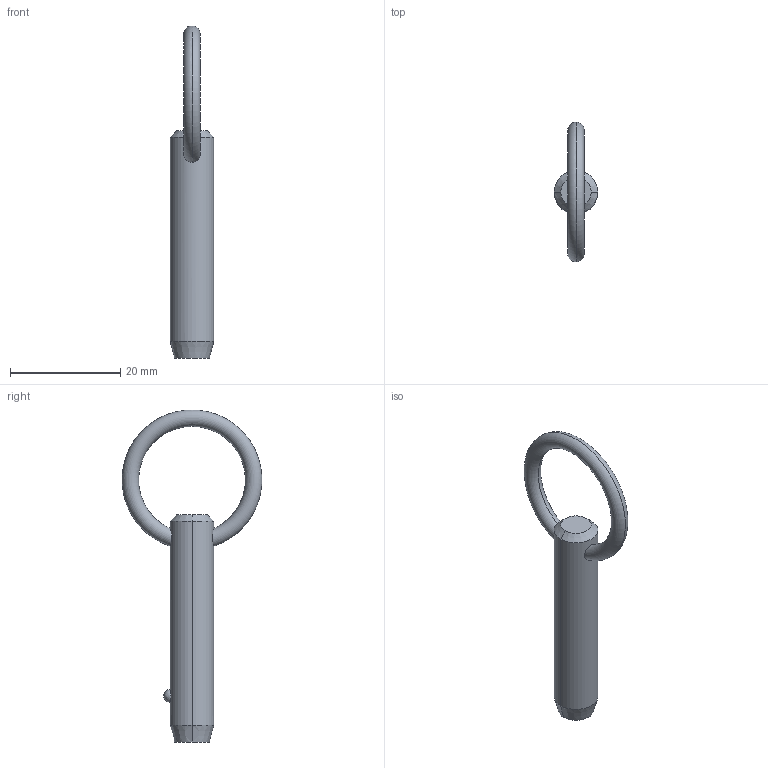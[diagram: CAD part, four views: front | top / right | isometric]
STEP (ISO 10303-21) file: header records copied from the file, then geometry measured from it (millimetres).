
FILE_DESCRIPTION (( 'STEP AP203' ), '1' );
FILE_NAME ('P1250.031-100.step', '2019-07-29T19:48:14', ( '' ), ( '' ), 'SwSTEP 2.0', 'SolidWorks 2017', '' );
FILE_SCHEMA (( 'CONFIG_CONTROL_DESIGN' ));
Length unit declared in the file: millimetre
Products named in the file (1): P1250.031-100
Bounding box: 7.93 x 25.36 x 60.3 mm (x, y, z)
Volume: 2438.8 mm3; surface area: 1663.5 mm2
Topology: 1 solids, 1 shells, 12 faces, 28 edges, 17 vertices
Faces by surface type: cone 4, torus 2, sphere 2, cylinder 2, plane 2
Entity records: 509 total; most frequent: CARTESIAN_POINT 176, DIRECTION 56, ORIENTED_EDGE 48, AXIS2_PLACEMENT_3D 25, EDGE_CURVE 24, EDGE_LOOP 15, VERTEX_POINT 15, FACE_OUTER_BOUND 12
